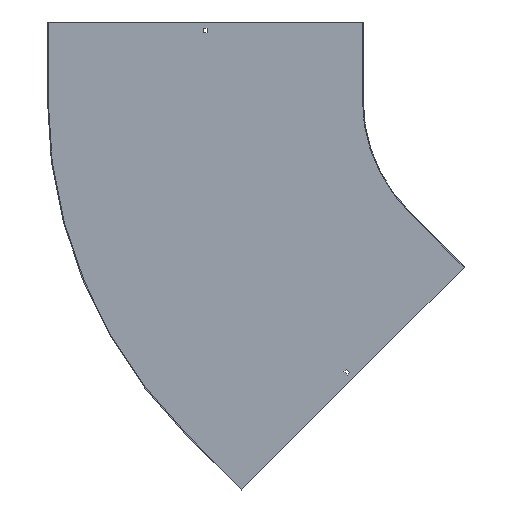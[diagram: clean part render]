
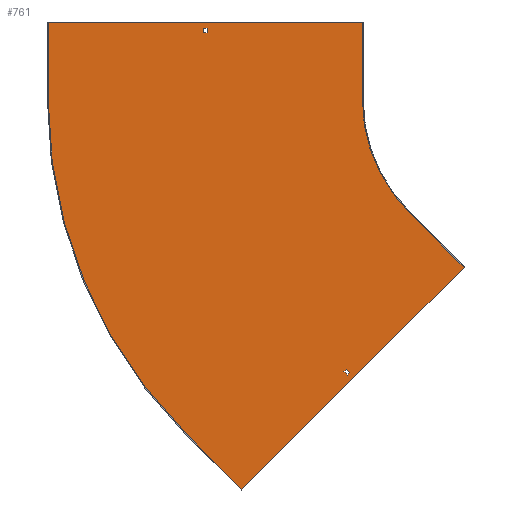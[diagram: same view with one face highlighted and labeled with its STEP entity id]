
A CAD part, front view. The second image highlights one B-rep face of the part: STEP entity #761.
In plain terms, the highlighted planar face has unit normal (0, -1, 0).
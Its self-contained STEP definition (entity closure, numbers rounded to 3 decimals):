
#7 = FACE_BOUND ( 'NONE', #478, .T. ) ;
#8 = CARTESIAN_POINT ( 'NONE',  ( -212.132, -1.5, -212.132 ) ) ;
#34 = DIRECTION ( 'NONE',  ( 0., 1., 0. ) ) ;
#40 = DIRECTION ( 'NONE',  ( 0., 0., 1. ) ) ;
#44 = CARTESIAN_POINT ( 'NONE',  ( -596.75, -1.5, 0. ) ) ;
#46 = ORIENTED_EDGE ( 'NONE', *, *, #133, .F. ) ;
#51 = AXIS2_PLACEMENT_3D ( 'NONE', #626, #34, #295 ) ;
#53 = CARTESIAN_POINT ( 'NONE',  ( -212.132, -1.5, -212.132 ) ) ;
#77 = EDGE_CURVE ( 'NONE', #380, #543, #758, .T. ) ;
#80 = CARTESIAN_POINT ( 'NONE',  ( 0., -1.5, 129. ) ) ;
#86 = VERTEX_POINT ( 'NONE', #420 ) ;
#88 = ORIENTED_EDGE ( 'NONE', *, *, #167, .T. ) ;
#91 = EDGE_LOOP ( 'NONE', ( #88, #659, #547, #495 ) ) ;
#93 = EDGE_CURVE ( 'NONE', #776, #205, #245, .T. ) ;
#99 = CARTESIAN_POINT ( 'NONE',  ( -328.981, -1.5, -524.143 ) ) ;
#106 = VERTEX_POINT ( 'NONE', #828 ) ;
#108 = DIRECTION ( 'NONE',  ( -0.707, 0., 0.707 ) ) ;
#109 = ORIENTED_EDGE ( 'NONE', *, *, #169, .F. ) ;
#122 = LINE ( 'NONE', #783, #201 ) ;
#127 = LINE ( 'NONE', #470, #526 ) ;
#133 = EDGE_CURVE ( 'NONE', #106, #516, #575, .T. ) ;
#154 = LINE ( 'NONE', #157, #158 ) ;
#156 = EDGE_CURVE ( 'NONE', #423, #106, #520, .T. ) ;
#157 = CARTESIAN_POINT ( 'NONE',  ( -105.005, -1.5, -317.137 ) ) ;
#158 = VECTOR ( 'NONE', #562, 1000. ) ;
#167 = EDGE_CURVE ( 'NONE', #253, #431, #782, .T. ) ;
#169 = EDGE_CURVE ( 'NONE', #408, #380, #446, .T. ) ;
#170 = CARTESIAN_POINT ( 'NONE',  ( -900., -1.5, 0. ) ) ;
#171 = AXIS2_PLACEMENT_3D ( 'NONE', #750, #226, #491 ) ;
#172 = DIRECTION ( 'NONE',  ( 1., 0., 0. ) ) ;
#174 = VECTOR ( 'NONE', #40, 1000. ) ;
#178 = CARTESIAN_POINT ( 'NONE',  ( 0., -1.5, 138. ) ) ;
#182 = CARTESIAN_POINT ( 'NONE',  ( -300., -1.5, 150. ) ) ;
#184 = ORIENTED_EDGE ( 'NONE', *, *, #156, .F. ) ;
#186 = VECTOR ( 'NONE', #716, 1000. ) ;
#199 = VECTOR ( 'NONE', #244, 1000. ) ;
#201 = VECTOR ( 'NONE', #445, 1000. ) ;
#203 = PLANE ( 'NONE',  #506 ) ;
#205 = VERTEX_POINT ( 'NONE', #170 ) ;
#219 = ORIENTED_EDGE ( 'NONE', *, *, #451, .F. ) ;
#225 = CARTESIAN_POINT ( 'NONE',  ( -426.562, -1.5, -426.562 ) ) ;
#226 = DIRECTION ( 'NONE',  ( 0., -1., 0. ) ) ;
#235 = CARTESIAN_POINT ( 'NONE',  ( -300., -1.5, 0. ) ) ;
#236 = EDGE_CURVE ( 'NONE', #818, #776, #127, .T. ) ;
#244 = DIRECTION ( 'NONE',  ( 0.707, 0., 0.707 ) ) ;
#245 = CIRCLE ( 'NONE', #51, 900. ) ;
#253 = VERTEX_POINT ( 'NONE', #685 ) ;
#259 = EDGE_CURVE ( 'NONE', #815, #830, #281, .T. ) ;
#261 = CARTESIAN_POINT ( 'NONE',  ( 0., -1.5, 0. ) ) ;
#263 = EDGE_CURVE ( 'NONE', #704, #423, #819, .T. ) ;
#281 = LINE ( 'NONE', #80, #658 ) ;
#283 = CARTESIAN_POINT ( 'NONE',  ( -636.396, -1.5, -636.396 ) ) ;
#287 = ORIENTED_EDGE ( 'NONE', *, *, #827, .F. ) ;
#295 = DIRECTION ( 'NONE',  ( 0., 0., -1. ) ) ;
#300 = EDGE_CURVE ( 'NONE', #830, #253, #628, .T. ) ;
#305 = LINE ( 'NONE', #707, #485 ) ;
#318 = ORIENTED_EDGE ( 'NONE', *, *, #93, .F. ) ;
#323 = CARTESIAN_POINT ( 'NONE',  ( -335.345, -1.5, -517.779 ) ) ;
#326 = DIRECTION ( 'NONE',  ( 0., -1., 0. ) ) ;
#351 = CARTESIAN_POINT ( 'NONE',  ( -596.75, -1.5, 129. ) ) ;
#362 = VECTOR ( 'NONE', #453, 1000. ) ;
#379 = CARTESIAN_POINT ( 'NONE',  ( -330.749, -1.5, -513.183 ) ) ;
#380 = VERTEX_POINT ( 'NONE', #235 ) ;
#404 = ORIENTED_EDGE ( 'NONE', *, *, #444, .F. ) ;
#408 = VERTEX_POINT ( 'NONE', #823 ) ;
#417 = DIRECTION ( 'NONE',  ( -1., 0., 0. ) ) ;
#420 = CARTESIAN_POINT ( 'NONE',  ( -106.066, -1.5, -318.198 ) ) ;
#423 = VERTEX_POINT ( 'NONE', #99 ) ;
#425 = CARTESIAN_POINT ( 'NONE',  ( -530.33, -1.5, -742.462 ) ) ;
#431 = VERTEX_POINT ( 'NONE', #500 ) ;
#438 = CARTESIAN_POINT ( 'NONE',  ( -421.966, -1.5, -421.966 ) ) ;
#444 = EDGE_CURVE ( 'NONE', #804, #408, #510, .T. ) ;
#445 = DIRECTION ( 'NONE',  ( 0., 0., 1. ) ) ;
#446 = LINE ( 'NONE', #182, #746 ) ;
#447 = EDGE_CURVE ( 'NONE', #543, #86, #771, .T. ) ;
#451 = EDGE_CURVE ( 'NONE', #205, #804, #122, .T. ) ;
#453 = DIRECTION ( 'NONE',  ( 0., 0., -1. ) ) ;
#458 = CARTESIAN_POINT ( 'NONE',  ( -901.5, -1.5, 150. ) ) ;
#468 = VECTOR ( 'NONE', #564, 1000. ) ;
#470 = CARTESIAN_POINT ( 'NONE',  ( -530.33, -1.5, -742.462 ) ) ;
#478 = EDGE_LOOP ( 'NONE', ( #46, #184, #525, #287 ) ) ;
#485 = VECTOR ( 'NONE', #572, 1000. ) ;
#491 = DIRECTION ( 'NONE',  ( 0., 0., -1. ) ) ;
#495 = ORIENTED_EDGE ( 'NONE', *, *, #300, .T. ) ;
#500 = CARTESIAN_POINT ( 'NONE',  ( -596.75, -1.5, 138. ) ) ;
#506 = AXIS2_PLACEMENT_3D ( 'NONE', #261, #326, #532 ) ;
#507 = DIRECTION ( 'NONE',  ( 0., 0., -1. ) ) ;
#510 = LINE ( 'NONE', #458, #625 ) ;
#516 = VERTEX_POINT ( 'NONE', #379 ) ;
#519 = EDGE_CURVE ( 'NONE', #431, #815, #640, .T. ) ;
#520 = LINE ( 'NONE', #638, #199 ) ;
#525 = ORIENTED_EDGE ( 'NONE', *, *, #263, .F. ) ;
#526 = VECTOR ( 'NONE', #734, 1000. ) ;
#530 = ORIENTED_EDGE ( 'NONE', *, *, #796, .F. ) ;
#532 = DIRECTION ( 'NONE',  ( 0., 0., -1. ) ) ;
#534 = ORIENTED_EDGE ( 'NONE', *, *, #447, .F. ) ;
#543 = VERTEX_POINT ( 'NONE', #8 ) ;
#547 = ORIENTED_EDGE ( 'NONE', *, *, #259, .T. ) ;
#556 = ORIENTED_EDGE ( 'NONE', *, *, #77, .F. ) ;
#562 = DIRECTION ( 'NONE',  ( -0.707, 0., -0.707 ) ) ;
#564 = DIRECTION ( 'NONE',  ( 0.707, 0., -0.707 ) ) ;
#572 = DIRECTION ( 'NONE',  ( -0.707, 0., -0.707 ) ) ;
#575 = LINE ( 'NONE', #438, #785 ) ;
#625 = VECTOR ( 'NONE', #172, 1000. ) ;
#626 = CARTESIAN_POINT ( 'NONE',  ( 0., -1.5, 0. ) ) ;
#628 = LINE ( 'NONE', #770, #174 ) ;
#632 = VECTOR ( 'NONE', #710, 1000. ) ;
#638 = CARTESIAN_POINT ( 'NONE',  ( 97.581, -1.5, -97.581 ) ) ;
#640 = LINE ( 'NONE', #44, #362 ) ;
#658 = VECTOR ( 'NONE', #417, 1000. ) ;
#659 = ORIENTED_EDGE ( 'NONE', *, *, #519, .T. ) ;
#685 = CARTESIAN_POINT ( 'NONE',  ( -603.25, -1.5, 138. ) ) ;
#691 = CARTESIAN_POINT ( 'NONE',  ( -900., -1.5, 150. ) ) ;
#704 = VERTEX_POINT ( 'NONE', #323 ) ;
#707 = CARTESIAN_POINT ( 'NONE',  ( 91.217, -1.5, -91.217 ) ) ;
#710 = DIRECTION ( 'NONE',  ( 1., 0., 0. ) ) ;
#716 = DIRECTION ( 'NONE',  ( 0.707, 0., -0.707 ) ) ;
#734 = DIRECTION ( 'NONE',  ( -0.707, 0., 0.707 ) ) ;
#746 = VECTOR ( 'NONE', #507, 1000. ) ;
#750 = CARTESIAN_POINT ( 'NONE',  ( 0., -1.5, 0. ) ) ;
#752 = EDGE_LOOP ( 'NONE', ( #404, #219, #318, #826, #530, #534, #556, #109 ) ) ;
#758 = CIRCLE ( 'NONE', #171, 300. ) ;
#761 = ADVANCED_FACE ( 'NONE', ( #7, #863, #858 ), #203, .T. ) ;
#770 = CARTESIAN_POINT ( 'NONE',  ( -603.25, -1.5, 0. ) ) ;
#771 = LINE ( 'NONE', #53, #186 ) ;
#776 = VERTEX_POINT ( 'NONE', #283 ) ;
#782 = LINE ( 'NONE', #178, #632 ) ;
#783 = CARTESIAN_POINT ( 'NONE',  ( -900., -1.5, 0. ) ) ;
#785 = VECTOR ( 'NONE', #108, 1000. ) ;
#796 = EDGE_CURVE ( 'NONE', #86, #818, #154, .T. ) ;
#804 = VERTEX_POINT ( 'NONE', #691 ) ;
#815 = VERTEX_POINT ( 'NONE', #351 ) ;
#818 = VERTEX_POINT ( 'NONE', #425 ) ;
#819 = LINE ( 'NONE', #225, #468 ) ;
#823 = CARTESIAN_POINT ( 'NONE',  ( -300., -1.5, 150. ) ) ;
#826 = ORIENTED_EDGE ( 'NONE', *, *, #236, .F. ) ;
#827 = EDGE_CURVE ( 'NONE', #516, #704, #305, .T. ) ;
#828 = CARTESIAN_POINT ( 'NONE',  ( -324.385, -1.5, -519.547 ) ) ;
#830 = VERTEX_POINT ( 'NONE', #855 ) ;
#855 = CARTESIAN_POINT ( 'NONE',  ( -603.25, -1.5, 129. ) ) ;
#858 = FACE_BOUND ( 'NONE', #91, .T. ) ;
#863 = FACE_OUTER_BOUND ( 'NONE', #752, .T. ) ;
